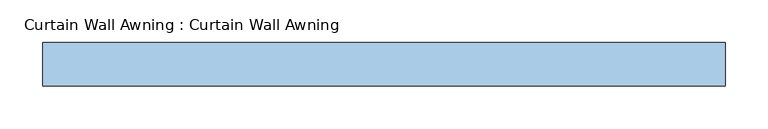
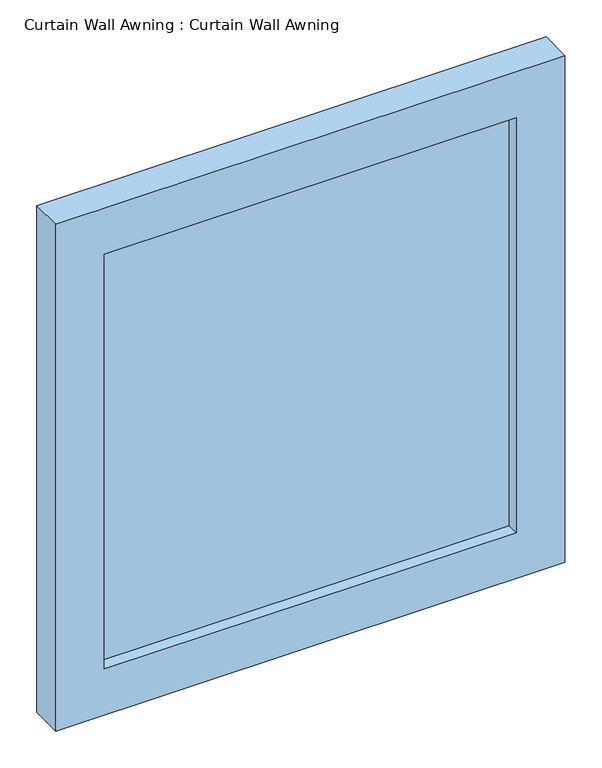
"""IFC4 building model written with IfcOpenShell, lengths in millimetres: window geometry, Curtain Wall Awning : Curtain Wall Awning."""

from ifc_helpers import new_model, si_unit, frame, origin, place, context, project, spatial, polyline, outline, extrude, source, transform, mapped, element, save


def curtain_wall_awning_curtain_wall_awning_1c09ced8(model_context):
    return source(origin(), model_context, "Body", "SweptSolid", [
        extrude(outline(polyline([(321.8821699, 44.45), (-321.8821699, 44.45), (-321.8821699, 57.15), (321.8821699, 57.15), (321.8821699, 44.45)])), frame((0.0, 0.0, 76.2), z_axis=(0.0, 0.0, 1.0), x_axis=(1.0, 0.0, 0.0)), (0.0, 0.0, 1.0), 685.6),
        extrude(outline(polyline([(838.0, -398.0821699), (0.0, -398.0821699), (0.0, 398.0821699), (838.0, 398.0821699), (838.0, -398.0821699)]), holes=[polyline([(761.8, -321.8821699), (761.8, 321.8821699), (76.2, 321.8821699), (76.2, -321.8821699), (761.8, -321.8821699)])]), frame((0.0, 25.4, 0.0), z_axis=(0.0, 1.0, 0.0), x_axis=(0.0, 0.0, 1.0)), (0.0, 0.0, 1.0), 50.8),
    ])


if __name__ == "__main__":
    model = new_model("IFC4")
    model_context = context("Model", 3, world=origin())
    ifc_project = project(units=[si_unit("LENGTHUNIT", "METRE", prefix="MILLI")], contexts=[model_context])
    site = spatial("IfcSite", under=ifc_project)
    building = spatial("IfcBuilding", under=site)
    placement = place(None, origin())
    curtain_wall_awning_curtain_wall_awning_shape = curtain_wall_awning_curtain_wall_awning_1c09ced8(model_context)
    element("IfcWindow", 1, ObjectType="Curtain Wall Awning : Curtain Wall Awning", at=placement, inside=building, context=model_context, shape_type="MappedRepresentation", body=[
        mapped(curtain_wall_awning_curtain_wall_awning_shape, transform((0.0, 0.0, 0.0), x_axis=(1.0, 0.0, 0.0), y_axis=(0.0, 1.0, 0.0), z_axis=(0.0, 0.0, 1.0))),
    ])
    save(model, "model.ifc")
